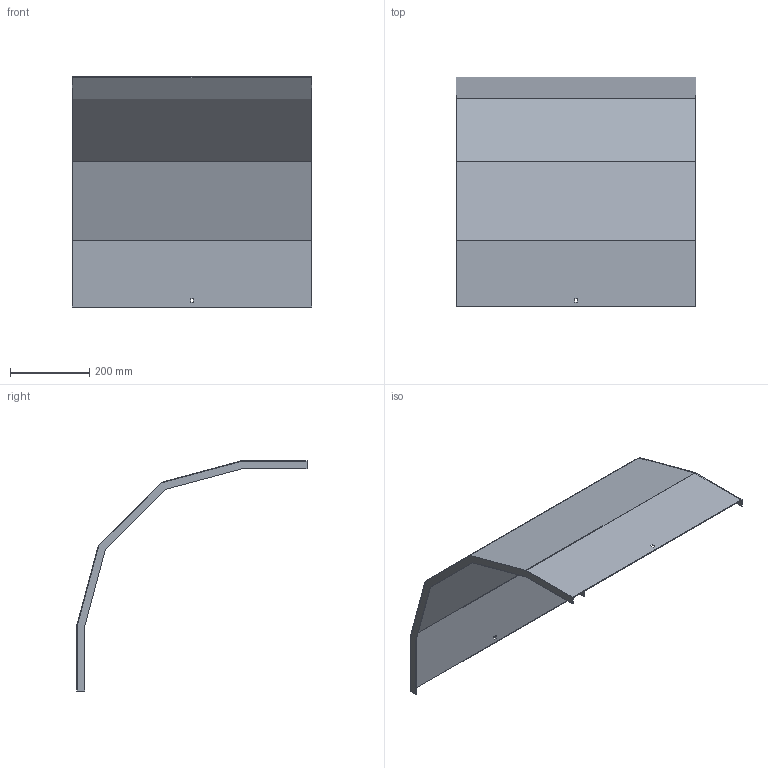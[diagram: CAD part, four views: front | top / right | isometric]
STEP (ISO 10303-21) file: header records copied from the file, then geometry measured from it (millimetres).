
FILE_DESCRIPTION (( 'STEP AP214' ), '1' );
FILE_NAME ('A2_33N3J600.step', '2025-02-21T10:45:41', ( '' ), ( '' ), 'SwSTEP 2.0', 'SolidWorks 2023', '' );
FILE_SCHEMA (( 'AUTOMOTIVE_DESIGN' ));
Length unit declared in the file: millimetre
Products named in the file (1): A2_33N3J600
Bounding box: 603 x 579.05 x 579.05 mm (x, y, z)
Volume: 930875.9 mm3; surface area: 1246004.5 mm2
Topology: 1 solids, 1 shells, 34 faces, 96 edges, 64 vertices
Faces by surface type: plane 34
Entity records: 1111 total; most frequent: CARTESIAN_POINT 195, ORIENTED_EDGE 192, DIRECTION 166, LINE 96, EDGE_CURVE 96, VECTOR 96, VERTEX_POINT 64, EDGE_LOOP 38
